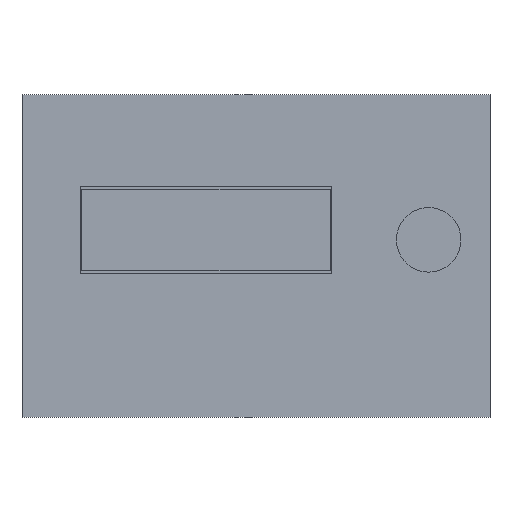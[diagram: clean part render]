
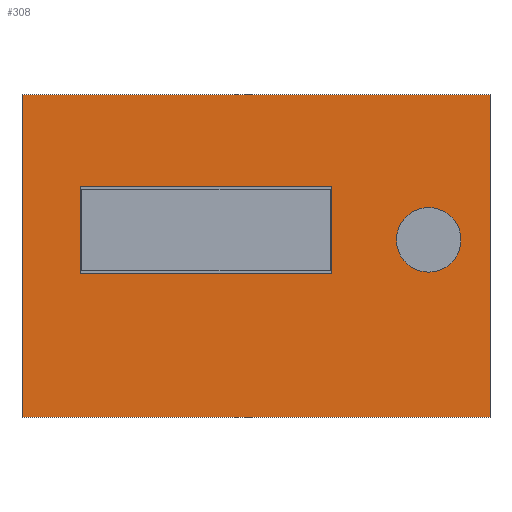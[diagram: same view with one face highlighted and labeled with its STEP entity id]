
A CAD part, front view. The second image highlights one B-rep face of the part: STEP entity #308.
In plain terms, the highlighted planar face has unit normal (0, -1, 0).
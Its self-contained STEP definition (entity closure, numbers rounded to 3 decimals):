
#86 = EDGE_CURVE('',#87,#89,#91,.T.);
#87 = VERTEX_POINT('',#88);
#88 = CARTESIAN_POINT('',(0.,0.,0.));
#89 = VERTEX_POINT('',#90);
#90 = CARTESIAN_POINT('',(0.,0.,100.));
#91 = SURFACE_CURVE('',#92,(#96,#108),.PCURVE_S1.);
#92 = LINE('',#93,#94);
#93 = CARTESIAN_POINT('',(0.,0.,0.));
#94 = VECTOR('',#95,1.);
#95 = DIRECTION('',(0.,0.,1.));
#96 = PCURVE('',#97,#102);
#97 = PLANE('',#98);
#98 = AXIS2_PLACEMENT_3D('',#99,#100,#101);
#99 = CARTESIAN_POINT('',(0.,0.,0.));
#100 = DIRECTION('',(1.,0.,0.));
#101 = DIRECTION('',(0.,0.,1.));
#102 = DEFINITIONAL_REPRESENTATION('',(#103),#107);
#103 = LINE('',#104,#105);
#104 = CARTESIAN_POINT('',(0.,0.));
#105 = VECTOR('',#106,1.);
#106 = DIRECTION('',(1.,0.));
#107 = ( GEOMETRIC_REPRESENTATION_CONTEXT(2) 
PARAMETRIC_REPRESENTATION_CONTEXT() REPRESENTATION_CONTEXT('2D SPACE',''
  ) );
#108 = PCURVE('',#109,#114);
#109 = PLANE('',#110);
#110 = AXIS2_PLACEMENT_3D('',#111,#112,#113);
#111 = CARTESIAN_POINT('',(0.,0.,0.));
#112 = DIRECTION('',(0.,1.,0.));
#113 = DIRECTION('',(0.,0.,1.));
#114 = DEFINITIONAL_REPRESENTATION('',(#115),#119);
#115 = LINE('',#116,#117);
#116 = CARTESIAN_POINT('',(0.,0.));
#117 = VECTOR('',#118,1.);
#118 = DIRECTION('',(1.,0.));
#119 = ( GEOMETRIC_REPRESENTATION_CONTEXT(2) 
PARAMETRIC_REPRESENTATION_CONTEXT() REPRESENTATION_CONTEXT('2D SPACE',''
  ) );
#137 = PLANE('',#138);
#138 = AXIS2_PLACEMENT_3D('',#139,#140,#141);
#139 = CARTESIAN_POINT('',(0.,0.,0.));
#140 = DIRECTION('',(0.,0.,1.));
#141 = DIRECTION('',(1.,0.,0.));
#191 = PLANE('',#192);
#192 = AXIS2_PLACEMENT_3D('',#193,#194,#195);
#193 = CARTESIAN_POINT('',(0.,0.,100.));
#194 = DIRECTION('',(0.,0.,1.));
#195 = DIRECTION('',(1.,0.,0.));
#308 = ADVANCED_FACE('',(#309,#384,#490),#109,.F.);
#309 = FACE_BOUND('',#310,.F.);
#310 = EDGE_LOOP('',(#311,#334,#335,#358));
#311 = ORIENTED_EDGE('',*,*,#312,.F.);
#312 = EDGE_CURVE('',#87,#313,#315,.T.);
#313 = VERTEX_POINT('',#314);
#314 = CARTESIAN_POINT('',(145.,0.,0.));
#315 = SURFACE_CURVE('',#316,(#320,#327),.PCURVE_S1.);
#316 = LINE('',#317,#318);
#317 = CARTESIAN_POINT('',(0.,0.,0.));
#318 = VECTOR('',#319,1.);
#319 = DIRECTION('',(1.,0.,0.));
#320 = PCURVE('',#109,#321);
#321 = DEFINITIONAL_REPRESENTATION('',(#322),#326);
#322 = LINE('',#323,#324);
#323 = CARTESIAN_POINT('',(0.,0.));
#324 = VECTOR('',#325,1.);
#325 = DIRECTION('',(0.,1.));
#326 = ( GEOMETRIC_REPRESENTATION_CONTEXT(2) 
PARAMETRIC_REPRESENTATION_CONTEXT() REPRESENTATION_CONTEXT('2D SPACE',''
  ) );
#327 = PCURVE('',#137,#328);
#328 = DEFINITIONAL_REPRESENTATION('',(#329),#333);
#329 = LINE('',#330,#331);
#330 = CARTESIAN_POINT('',(0.,0.));
#331 = VECTOR('',#332,1.);
#332 = DIRECTION('',(1.,0.));
#333 = ( GEOMETRIC_REPRESENTATION_CONTEXT(2) 
PARAMETRIC_REPRESENTATION_CONTEXT() REPRESENTATION_CONTEXT('2D SPACE',''
  ) );
#334 = ORIENTED_EDGE('',*,*,#86,.T.);
#335 = ORIENTED_EDGE('',*,*,#336,.T.);
#336 = EDGE_CURVE('',#89,#337,#339,.T.);
#337 = VERTEX_POINT('',#338);
#338 = CARTESIAN_POINT('',(145.,0.,100.));
#339 = SURFACE_CURVE('',#340,(#344,#351),.PCURVE_S1.);
#340 = LINE('',#341,#342);
#341 = CARTESIAN_POINT('',(0.,0.,100.));
#342 = VECTOR('',#343,1.);
#343 = DIRECTION('',(1.,0.,0.));
#344 = PCURVE('',#109,#345);
#345 = DEFINITIONAL_REPRESENTATION('',(#346),#350);
#346 = LINE('',#347,#348);
#347 = CARTESIAN_POINT('',(100.,0.));
#348 = VECTOR('',#349,1.);
#349 = DIRECTION('',(0.,1.));
#350 = ( GEOMETRIC_REPRESENTATION_CONTEXT(2) 
PARAMETRIC_REPRESENTATION_CONTEXT() REPRESENTATION_CONTEXT('2D SPACE',''
  ) );
#351 = PCURVE('',#191,#352);
#352 = DEFINITIONAL_REPRESENTATION('',(#353),#357);
#353 = LINE('',#354,#355);
#354 = CARTESIAN_POINT('',(0.,0.));
#355 = VECTOR('',#356,1.);
#356 = DIRECTION('',(1.,0.));
#357 = ( GEOMETRIC_REPRESENTATION_CONTEXT(2) 
PARAMETRIC_REPRESENTATION_CONTEXT() REPRESENTATION_CONTEXT('2D SPACE',''
  ) );
#358 = ORIENTED_EDGE('',*,*,#359,.F.);
#359 = EDGE_CURVE('',#313,#337,#360,.T.);
#360 = SURFACE_CURVE('',#361,(#365,#372),.PCURVE_S1.);
#361 = LINE('',#362,#363);
#362 = CARTESIAN_POINT('',(145.,0.,0.));
#363 = VECTOR('',#364,1.);
#364 = DIRECTION('',(0.,0.,1.));
#365 = PCURVE('',#109,#366);
#366 = DEFINITIONAL_REPRESENTATION('',(#367),#371);
#367 = LINE('',#368,#369);
#368 = CARTESIAN_POINT('',(0.,145.));
#369 = VECTOR('',#370,1.);
#370 = DIRECTION('',(1.,0.));
#371 = ( GEOMETRIC_REPRESENTATION_CONTEXT(2) 
PARAMETRIC_REPRESENTATION_CONTEXT() REPRESENTATION_CONTEXT('2D SPACE',''
  ) );
#372 = PCURVE('',#373,#378);
#373 = PLANE('',#374);
#374 = AXIS2_PLACEMENT_3D('',#375,#376,#377);
#375 = CARTESIAN_POINT('',(145.,0.,0.));
#376 = DIRECTION('',(1.,0.,0.));
#377 = DIRECTION('',(0.,0.,1.));
#378 = DEFINITIONAL_REPRESENTATION('',(#379),#383);
#379 = LINE('',#380,#381);
#380 = CARTESIAN_POINT('',(0.,0.));
#381 = VECTOR('',#382,1.);
#382 = DIRECTION('',(1.,0.));
#383 = ( GEOMETRIC_REPRESENTATION_CONTEXT(2) 
PARAMETRIC_REPRESENTATION_CONTEXT() REPRESENTATION_CONTEXT('2D SPACE',''
  ) );
#384 = FACE_BOUND('',#385,.F.);
#385 = EDGE_LOOP('',(#386,#414,#440,#466));
#386 = ORIENTED_EDGE('',*,*,#387,.F.);
#387 = EDGE_CURVE('',#388,#390,#392,.T.);
#388 = VERTEX_POINT('',#389);
#389 = CARTESIAN_POINT('',(18.,0.,71.5));
#390 = VERTEX_POINT('',#391);
#391 = CARTESIAN_POINT('',(96.,0.,71.5));
#392 = SURFACE_CURVE('',#393,(#397,#403),.PCURVE_S1.);
#393 = LINE('',#394,#395);
#394 = CARTESIAN_POINT('',(9.,0.,71.5));
#395 = VECTOR('',#396,1.);
#396 = DIRECTION('',(1.,0.,0.));
#397 = PCURVE('',#109,#398);
#398 = DEFINITIONAL_REPRESENTATION('',(#399),#402);
#399 = B_SPLINE_CURVE_WITH_KNOTS('',1,(#400,#401),.UNSPECIFIED.,.F.,.F.,
  (2,2),(9.,87.),.PIECEWISE_BEZIER_KNOTS.);
#400 = CARTESIAN_POINT('',(71.5,18.));
#401 = CARTESIAN_POINT('',(71.5,96.));
#402 = ( GEOMETRIC_REPRESENTATION_CONTEXT(2) 
PARAMETRIC_REPRESENTATION_CONTEXT() REPRESENTATION_CONTEXT('2D SPACE',''
  ) );
#403 = PCURVE('',#404,#409);
#404 = PLANE('',#405);
#405 = AXIS2_PLACEMENT_3D('',#406,#407,#408);
#406 = CARTESIAN_POINT('',(18.,-0.1,71.5));
#407 = DIRECTION('',(0.,0.,1.));
#408 = DIRECTION('',(1.,0.,0.));
#409 = DEFINITIONAL_REPRESENTATION('',(#410),#413);
#410 = B_SPLINE_CURVE_WITH_KNOTS('',1,(#411,#412),.UNSPECIFIED.,.F.,.F.,
  (2,2),(9.,87.),.PIECEWISE_BEZIER_KNOTS.);
#411 = CARTESIAN_POINT('',(0.,0.1));
#412 = CARTESIAN_POINT('',(78.,0.1));
#413 = ( GEOMETRIC_REPRESENTATION_CONTEXT(2) 
PARAMETRIC_REPRESENTATION_CONTEXT() REPRESENTATION_CONTEXT('2D SPACE',''
  ) );
#414 = ORIENTED_EDGE('',*,*,#415,.T.);
#415 = EDGE_CURVE('',#388,#416,#418,.T.);
#416 = VERTEX_POINT('',#417);
#417 = CARTESIAN_POINT('',(18.,0.,44.5));
#418 = SURFACE_CURVE('',#419,(#423,#429),.PCURVE_S1.);
#419 = LINE('',#420,#421);
#420 = CARTESIAN_POINT('',(18.,0.,22.25));
#421 = VECTOR('',#422,1.);
#422 = DIRECTION('',(0.,0.,-1.));
#423 = PCURVE('',#109,#424);
#424 = DEFINITIONAL_REPRESENTATION('',(#425),#428);
#425 = B_SPLINE_CURVE_WITH_KNOTS('',1,(#426,#427),.UNSPECIFIED.,.F.,.F.,
  (2,2),(-49.25,-22.25),.PIECEWISE_BEZIER_KNOTS.);
#426 = CARTESIAN_POINT('',(71.5,18.));
#427 = CARTESIAN_POINT('',(44.5,18.));
#428 = ( GEOMETRIC_REPRESENTATION_CONTEXT(2) 
PARAMETRIC_REPRESENTATION_CONTEXT() REPRESENTATION_CONTEXT('2D SPACE',''
  ) );
#429 = PCURVE('',#430,#435);
#430 = PLANE('',#431);
#431 = AXIS2_PLACEMENT_3D('',#432,#433,#434);
#432 = CARTESIAN_POINT('',(18.,-0.1,44.5));
#433 = DIRECTION('',(1.,0.,0.));
#434 = DIRECTION('',(0.,0.,1.));
#435 = DEFINITIONAL_REPRESENTATION('',(#436),#439);
#436 = B_SPLINE_CURVE_WITH_KNOTS('',1,(#437,#438),.UNSPECIFIED.,.F.,.F.,
  (2,2),(-49.25,-22.25),.PIECEWISE_BEZIER_KNOTS.);
#437 = CARTESIAN_POINT('',(27.,-0.1));
#438 = CARTESIAN_POINT('',(0.,-0.1));
#439 = ( GEOMETRIC_REPRESENTATION_CONTEXT(2) 
PARAMETRIC_REPRESENTATION_CONTEXT() REPRESENTATION_CONTEXT('2D SPACE',''
  ) );
#440 = ORIENTED_EDGE('',*,*,#441,.T.);
#441 = EDGE_CURVE('',#416,#442,#444,.T.);
#442 = VERTEX_POINT('',#443);
#443 = CARTESIAN_POINT('',(96.,0.,44.5));
#444 = SURFACE_CURVE('',#445,(#449,#455),.PCURVE_S1.);
#445 = LINE('',#446,#447);
#446 = CARTESIAN_POINT('',(9.,0.,44.5));
#447 = VECTOR('',#448,1.);
#448 = DIRECTION('',(1.,0.,0.));
#449 = PCURVE('',#109,#450);
#450 = DEFINITIONAL_REPRESENTATION('',(#451),#454);
#451 = B_SPLINE_CURVE_WITH_KNOTS('',1,(#452,#453),.UNSPECIFIED.,.F.,.F.,
  (2,2),(9.,87.),.PIECEWISE_BEZIER_KNOTS.);
#452 = CARTESIAN_POINT('',(44.5,18.));
#453 = CARTESIAN_POINT('',(44.5,96.));
#454 = ( GEOMETRIC_REPRESENTATION_CONTEXT(2) 
PARAMETRIC_REPRESENTATION_CONTEXT() REPRESENTATION_CONTEXT('2D SPACE',''
  ) );
#455 = PCURVE('',#456,#461);
#456 = PLANE('',#457);
#457 = AXIS2_PLACEMENT_3D('',#458,#459,#460);
#458 = CARTESIAN_POINT('',(18.,-0.1,44.5));
#459 = DIRECTION('',(0.,0.,1.));
#460 = DIRECTION('',(1.,0.,0.));
#461 = DEFINITIONAL_REPRESENTATION('',(#462),#465);
#462 = B_SPLINE_CURVE_WITH_KNOTS('',1,(#463,#464),.UNSPECIFIED.,.F.,.F.,
  (2,2),(9.,87.),.PIECEWISE_BEZIER_KNOTS.);
#463 = CARTESIAN_POINT('',(0.,0.1));
#464 = CARTESIAN_POINT('',(78.,0.1));
#465 = ( GEOMETRIC_REPRESENTATION_CONTEXT(2) 
PARAMETRIC_REPRESENTATION_CONTEXT() REPRESENTATION_CONTEXT('2D SPACE',''
  ) );
#466 = ORIENTED_EDGE('',*,*,#467,.F.);
#467 = EDGE_CURVE('',#390,#442,#468,.T.);
#468 = SURFACE_CURVE('',#469,(#473,#479),.PCURVE_S1.);
#469 = LINE('',#470,#471);
#470 = CARTESIAN_POINT('',(96.,0.,22.25));
#471 = VECTOR('',#472,1.);
#472 = DIRECTION('',(0.,0.,-1.));
#473 = PCURVE('',#109,#474);
#474 = DEFINITIONAL_REPRESENTATION('',(#475),#478);
#475 = B_SPLINE_CURVE_WITH_KNOTS('',1,(#476,#477),.UNSPECIFIED.,.F.,.F.,
  (2,2),(-49.25,-22.25),.PIECEWISE_BEZIER_KNOTS.);
#476 = CARTESIAN_POINT('',(71.5,96.));
#477 = CARTESIAN_POINT('',(44.5,96.));
#478 = ( GEOMETRIC_REPRESENTATION_CONTEXT(2) 
PARAMETRIC_REPRESENTATION_CONTEXT() REPRESENTATION_CONTEXT('2D SPACE',''
  ) );
#479 = PCURVE('',#480,#485);
#480 = PLANE('',#481);
#481 = AXIS2_PLACEMENT_3D('',#482,#483,#484);
#482 = CARTESIAN_POINT('',(96.,-0.1,44.5));
#483 = DIRECTION('',(1.,0.,0.));
#484 = DIRECTION('',(0.,0.,1.));
#485 = DEFINITIONAL_REPRESENTATION('',(#486),#489);
#486 = B_SPLINE_CURVE_WITH_KNOTS('',1,(#487,#488),.UNSPECIFIED.,.F.,.F.,
  (2,2),(-49.25,-22.25),.PIECEWISE_BEZIER_KNOTS.);
#487 = CARTESIAN_POINT('',(27.,-0.1));
#488 = CARTESIAN_POINT('',(0.,-0.1));
#489 = ( GEOMETRIC_REPRESENTATION_CONTEXT(2) 
PARAMETRIC_REPRESENTATION_CONTEXT() REPRESENTATION_CONTEXT('2D SPACE',''
  ) );
#490 = FACE_BOUND('',#491,.F.);
#491 = EDGE_LOOP('',(#492));
#492 = ORIENTED_EDGE('',*,*,#493,.F.);
#493 = EDGE_CURVE('',#494,#494,#496,.T.);
#494 = VERTEX_POINT('',#495);
#495 = CARTESIAN_POINT('',(126.,0.,58.6));
#496 = SURFACE_CURVE('',#497,(#502,#509),.PCURVE_S1.);
#497 = CIRCLE('',#498,3.6);
#498 = AXIS2_PLACEMENT_3D('',#499,#500,#501);
#499 = CARTESIAN_POINT('',(126.,0.,55.));
#500 = DIRECTION('',(0.,1.,0.));
#501 = DIRECTION('',(0.,-0.,1.));
#502 = PCURVE('',#109,#503);
#503 = DEFINITIONAL_REPRESENTATION('',(#504),#508);
#504 = CIRCLE('',#505,3.6);
#505 = AXIS2_PLACEMENT_2D('',#506,#507);
#506 = CARTESIAN_POINT('',(55.,126.));
#507 = DIRECTION('',(1.,0.));
#508 = ( GEOMETRIC_REPRESENTATION_CONTEXT(2) 
PARAMETRIC_REPRESENTATION_CONTEXT() REPRESENTATION_CONTEXT('2D SPACE',''
  ) );
#509 = PCURVE('',#510,#515);
#510 = CYLINDRICAL_SURFACE('',#511,3.6);
#511 = AXIS2_PLACEMENT_3D('',#512,#513,#514);
#512 = CARTESIAN_POINT('',(126.,-0.1,55.));
#513 = DIRECTION('',(0.,1.,0.));
#514 = DIRECTION('',(0.,-0.,1.));
#515 = DEFINITIONAL_REPRESENTATION('',(#516),#520);
#516 = LINE('',#517,#518);
#517 = CARTESIAN_POINT('',(0.,0.1));
#518 = VECTOR('',#519,1.);
#519 = DIRECTION('',(1.,0.));
#520 = ( GEOMETRIC_REPRESENTATION_CONTEXT(2) 
PARAMETRIC_REPRESENTATION_CONTEXT() REPRESENTATION_CONTEXT('2D SPACE',''
  ) );
